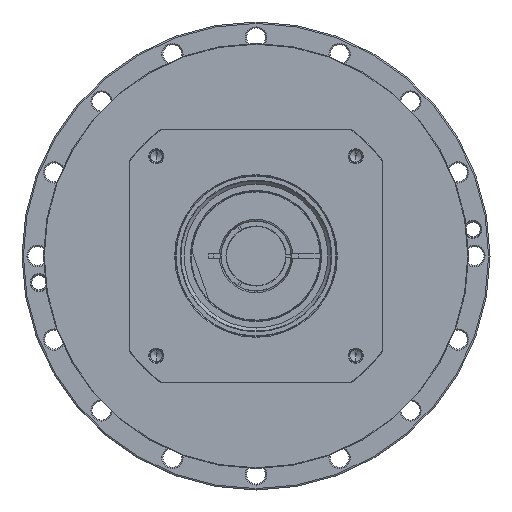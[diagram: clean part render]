
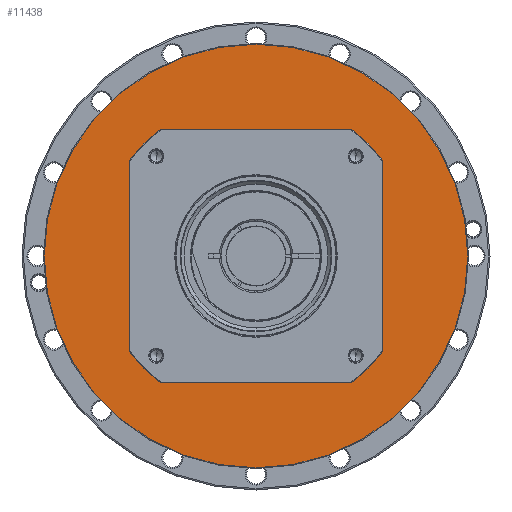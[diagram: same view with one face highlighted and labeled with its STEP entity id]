
A CAD part, left-side view. The second image highlights one B-rep face of the part: STEP entity #11438.
In plain terms, the highlighted planar face has unit normal (-1, 0, 0) as drawn and (1, 0, 0) by its records, which use the part's own axes.
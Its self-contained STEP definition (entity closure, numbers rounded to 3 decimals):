
#10469=CARTESIAN_POINT('',(-4.,0.,0.));
#10470=DIRECTION('',(-1.,0.,0.));
#10471=DIRECTION('',(0.,-1.,0.));
#10472=AXIS2_PLACEMENT_3D('',#10469,#10470,#10471);
#10474=CARTESIAN_POINT('',(-4.,0.,0.));
#10475=DIRECTION('',(-1.,0.,0.));
#10476=DIRECTION('',(0.,1.,0.));
#10477=AXIS2_PLACEMENT_3D('',#10474,#10475,#10476);
#10479=CARTESIAN_POINT('',(-4.,0.,0.));
#10480=DIRECTION('',(-1.,0.,0.));
#10481=DIRECTION('',(0.,-1.,0.));
#10482=AXIS2_PLACEMENT_3D('',#10479,#10480,#10481);
#10484=CARTESIAN_POINT('',(-4.,0.,0.));
#10485=DIRECTION('',(-1.,0.,0.));
#10486=DIRECTION('',(0.,1.,0.));
#10487=AXIS2_PLACEMENT_3D('',#10484,#10485,#10486);
#10731=CARTESIAN_POINT('',(-4.,-150.25,0.));
#10732=CARTESIAN_POINT('',(-4.,150.25,0.));
#10733=VERTEX_POINT('',#10731);
#10734=VERTEX_POINT('',#10732);
#10789=CARTESIAN_POINT('',(-4.,-74.5,0.));
#10790=CARTESIAN_POINT('',(-4.,74.5,0.));
#10791=VERTEX_POINT('',#10789);
#10792=VERTEX_POINT('',#10790);
#11423=CARTESIAN_POINT('',(-4.,0.,0.));
#11424=DIRECTION('',(1.,0.,0.));
#11425=DIRECTION('',(0.,-1.,0.));
#11426=AXIS2_PLACEMENT_3D('',#11423,#11424,#11425);
#11427=PLANE('',#11426);
#11428=ORIENTED_EDGE('',*,*,#11379,.T.);
#11429=ORIENTED_EDGE('',*,*,#11364,.T.);
#11430=EDGE_LOOP('',(#11428,#11429));
#11431=FACE_OUTER_BOUND('',#11430,.F.);
#11433=ORIENTED_EDGE('',*,*,#11432,.F.);
#11435=ORIENTED_EDGE('',*,*,#11434,.F.);
#11436=EDGE_LOOP('',(#11433,#11435));
#11437=FACE_BOUND('',#11436,.F.);
#11438=ADVANCED_FACE('',(#11431,#11437),#11427,.T.);
#10473=CIRCLE('',#10472,74.5);
#10478=CIRCLE('',#10477,74.5);
#10483=CIRCLE('',#10482,150.25);
#10488=CIRCLE('',#10487,150.25);
#11364=EDGE_CURVE('',#10734,#10733,#10488,.T.);
#11379=EDGE_CURVE('',#10733,#10734,#10483,.T.);
#11432=EDGE_CURVE('',#10791,#10792,#10473,.T.);
#11434=EDGE_CURVE('',#10792,#10791,#10478,.T.);
